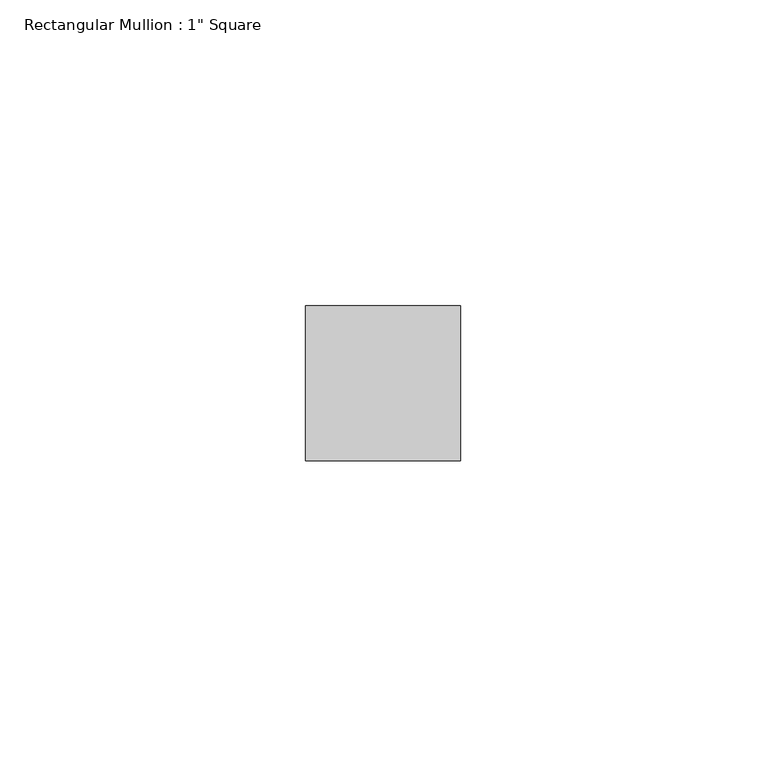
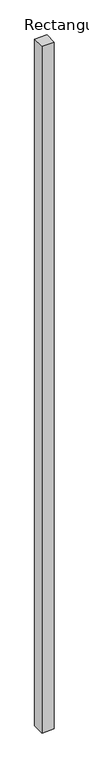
"""IFC4 building model written with IfcOpenShell, lengths in millimetres: member geometry."""

from ifc_helpers import new_model, si_unit, frame, origin, place, context, project, spatial, polyline, outline, extrude, source, transform, mapped, element, save


def member_299080b6(model_context):
    return source(origin(), model_context, "Body", "SweptSolid", [
        extrude(outline(polyline([(12.7, 12.7), (12.7, -12.7), (-12.7, -12.7), (-12.7, 12.7), (12.7, 12.7)])), frame((0.0, 0.0, -1486.6307635), z_axis=(0.0, 0.0, 1.0), x_axis=(1.0, 0.0, 0.0)), (0.0, 0.0, 1.0), 1486.6307635),
    ])


if __name__ == "__main__":
    model = new_model("IFC4")
    model_context = context("Model", 3, world=origin())
    ifc_project = project(units=[si_unit("LENGTHUNIT", "METRE", prefix="MILLI")], contexts=[model_context])
    site = spatial("IfcSite", under=ifc_project)
    building = spatial("IfcBuilding", under=site)
    placement = place(None, origin())
    member_shape = member_299080b6(model_context)
    element("IfcMember", 1, ObjectType="Rectangular Mullion : 1\" Square", at=placement, inside=building, context=model_context, shape_type="MappedRepresentation", body=[
        mapped(member_shape, transform((0.0, 0.0, 0.0), x_axis=(1.0, 0.0, 0.0), y_axis=(0.0, 1.0, 0.0), z_axis=(0.0, 0.0, 1.0))),
    ])
    save(model, "model.ifc")
